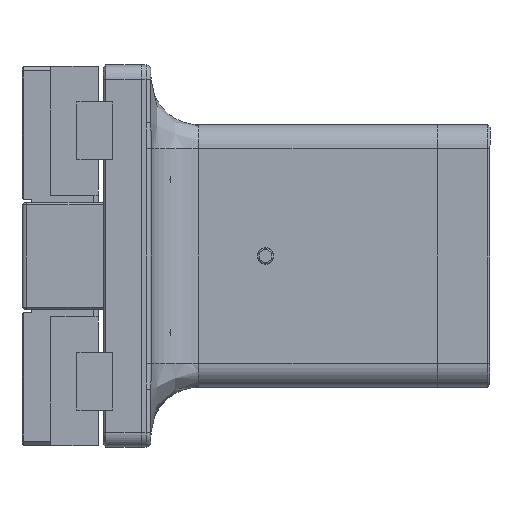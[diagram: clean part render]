
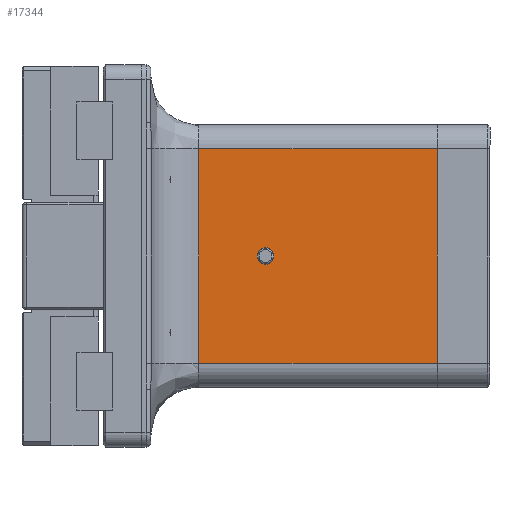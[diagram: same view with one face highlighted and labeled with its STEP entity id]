
A CAD part, left-side view. The second image highlights one B-rep face of the part: STEP entity #17344.
In plain terms, the highlighted planar face has unit normal (-1, 0, 0).
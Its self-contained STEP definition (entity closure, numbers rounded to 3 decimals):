
#157 = AXIS2_PLACEMENT_3D ( 'NONE', #16138, #2095, #8327 ) ;
#256 = CARTESIAN_POINT ( 'NONE',  ( -37.5, -35.75, 0. ) ) ;
#788 = CIRCLE ( 'NONE', #6647, 1.75 ) ;
#799 = CARTESIAN_POINT ( 'NONE',  ( -37.5, -70., -22.5 ) ) ;
#1197 = VERTEX_POINT ( 'NONE', #4332 ) ;
#2077 = ORIENTED_EDGE ( 'NONE', *, *, #9420, .T. ) ;
#2095 = DIRECTION ( 'NONE',  ( -1., 0., 0. ) ) ;
#2195 = DIRECTION ( 'NONE',  ( 0., 0., -1. ) ) ;
#2602 = VERTEX_POINT ( 'NONE', #3332 ) ;
#3332 = CARTESIAN_POINT ( 'NONE',  ( -37.5, -20., -22.5 ) ) ;
#3346 = VECTOR ( 'NONE', #5028, 1000. ) ;
#3650 = CARTESIAN_POINT ( 'NONE',  ( -37.5, -32.25, 0. ) ) ;
#3793 = CARTESIAN_POINT ( 'NONE',  ( -37.5, -70., 0. ) ) ;
#3801 = VECTOR ( 'NONE', #6927, 1000. ) ;
#3878 = VECTOR ( 'NONE', #2195, 1000. ) ;
#4332 = CARTESIAN_POINT ( 'NONE',  ( -37.5, -70., -22.5 ) ) ;
#5028 = DIRECTION ( 'NONE',  ( 0., 0., -1. ) ) ;
#5114 = ORIENTED_EDGE ( 'NONE', *, *, #19315, .F. ) ;
#5284 = DIRECTION ( 'NONE',  ( -1., 0., 0. ) ) ;
#5303 = ORIENTED_EDGE ( 'NONE', *, *, #6308, .F. ) ;
#6156 = CARTESIAN_POINT ( 'NONE',  ( -37.5, -70., 22.5 ) ) ;
#6308 = EDGE_CURVE ( 'NONE', #14081, #1197, #16095, .T. ) ;
#6647 = AXIS2_PLACEMENT_3D ( 'NONE', #8670, #5284, #9896 ) ;
#6927 = DIRECTION ( 'NONE',  ( 0., 1., 0. ) ) ;
#7158 = EDGE_CURVE ( 'NONE', #13139, #19164, #788, .T. ) ;
#7193 = ORIENTED_EDGE ( 'NONE', *, *, #7432, .F. ) ;
#7432 = EDGE_CURVE ( 'NONE', #19164, #13139, #17793, .T. ) ;
#8008 = LINE ( 'NONE', #14283, #3878 ) ;
#8327 = DIRECTION ( 'NONE',  ( 0., 1., 0. ) ) ;
#8383 = VECTOR ( 'NONE', #18545, 1000. ) ;
#8608 = AXIS2_PLACEMENT_3D ( 'NONE', #12844, #17423, #13242 ) ;
#8670 = CARTESIAN_POINT ( 'NONE',  ( -37.5, -34., 0. ) ) ;
#9420 = EDGE_CURVE ( 'NONE', #12545, #2602, #8008, .T. ) ;
#9896 = DIRECTION ( 'NONE',  ( 0., 1., 0. ) ) ;
#10606 = ORIENTED_EDGE ( 'NONE', *, *, #7158, .F. ) ;
#10701 = FACE_OUTER_BOUND ( 'NONE', #15335, .T. ) ;
#10996 = CARTESIAN_POINT ( 'NONE',  ( -37.5, -70., 22.5 ) ) ;
#12146 = FACE_BOUND ( 'NONE', #15260, .T. ) ;
#12545 = VERTEX_POINT ( 'NONE', #15703 ) ;
#12844 = CARTESIAN_POINT ( 'NONE',  ( -37.5, -70., -27.5 ) ) ;
#13139 = VERTEX_POINT ( 'NONE', #3650 ) ;
#13242 = DIRECTION ( 'NONE',  ( 0., -1., 0. ) ) ;
#13736 = EDGE_CURVE ( 'NONE', #1197, #2602, #19602, .T. ) ;
#13992 = ORIENTED_EDGE ( 'NONE', *, *, #13736, .F. ) ;
#14081 = VERTEX_POINT ( 'NONE', #6156 ) ;
#14283 = CARTESIAN_POINT ( 'NONE',  ( -37.5, -20., -27.5 ) ) ;
#15260 = EDGE_LOOP ( 'NONE', ( #10606, #7193 ) ) ;
#15335 = EDGE_LOOP ( 'NONE', ( #2077, #13992, #5303, #5114 ) ) ;
#15590 = LINE ( 'NONE', #10996, #8383 ) ;
#15703 = CARTESIAN_POINT ( 'NONE',  ( -37.5, -20., 22.5 ) ) ;
#16095 = LINE ( 'NONE', #3793, #3346 ) ;
#16138 = CARTESIAN_POINT ( 'NONE',  ( -37.5, -34., 0. ) ) ;
#17344 = ADVANCED_FACE ( 'NONE', ( #10701, #12146 ), #18375, .F. ) ;
#17423 = DIRECTION ( 'NONE',  ( 1., 0., 0. ) ) ;
#17793 = CIRCLE ( 'NONE', #157, 1.75 ) ;
#18375 = PLANE ( 'NONE',  #8608 ) ;
#18545 = DIRECTION ( 'NONE',  ( 0., -1., 0. ) ) ;
#19164 = VERTEX_POINT ( 'NONE', #256 ) ;
#19315 = EDGE_CURVE ( 'NONE', #12545, #14081, #15590, .T. ) ;
#19602 = LINE ( 'NONE', #799, #3801 ) ;
